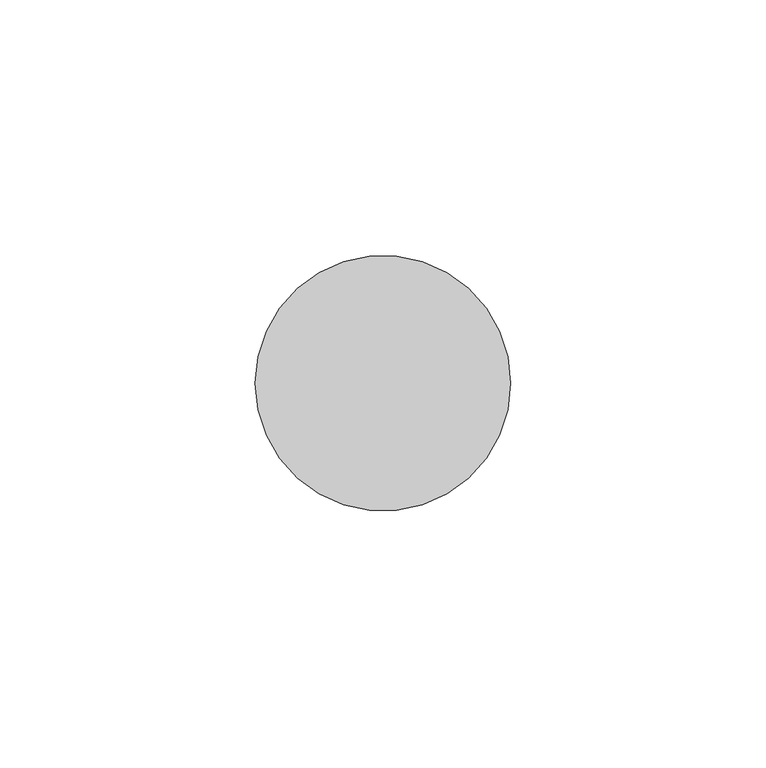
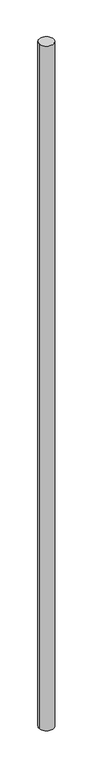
"""IFC4 building model written with IfcOpenShell, lengths in millimetres: member geometry, 圓形豎框 : 25mm 半徑."""

from ifc_helpers import new_model, si_unit, point, frame, origin, origin_2d, place, context, project, spatial, circle_curve, trimmed, segment, composite_curve, outline, extrude, source, transform, mapped, element, save


def member_d9b21ff1(model_context):
    return source(origin(), model_context, "Body", "SweptSolid", [
        extrude(outline(composite_curve([segment(trimmed(circle_curve(origin_2d(), 25.0), [point((25.0, 0.0))], [point((-25.0, 0.0))], False, "CARTESIAN"), True, "CONTINUOUS"), segment(trimmed(circle_curve(origin_2d(), 25.0), [point((-25.0, 0.0))], [point((25.0, 0.0))], False, "CARTESIAN"), True, "CONTINUOUS")], self_intersect=False)), frame((0.0, 0.0, -2499.8655734), z_axis=(0.0, 0.0, 1.0), x_axis=(1.0, 0.0, 0.0)), (0.0, 0.0, 1.0), 2499.8655734),
    ])


if __name__ == "__main__":
    model = new_model("IFC4")
    model_context = context("Model", 3, world=origin())
    ifc_project = project(units=[si_unit("LENGTHUNIT", "METRE", prefix="MILLI")], contexts=[model_context])
    site = spatial("IfcSite", under=ifc_project)
    building = spatial("IfcBuilding", under=site)
    placement = place(None, origin())
    member_shape = member_d9b21ff1(model_context)
    element("IfcMember", 1, ObjectType="圓形豎框 : 25mm 半徑", at=placement, inside=building, context=model_context, shape_type="MappedRepresentation", body=[
        mapped(member_shape, transform((0.0, 0.0, 0.0), x_axis=(1.0, 0.0, 0.0), y_axis=(0.0, 1.0, 0.0), z_axis=(0.0, 0.0, 1.0))),
    ])
    save(model, "model.ifc")
